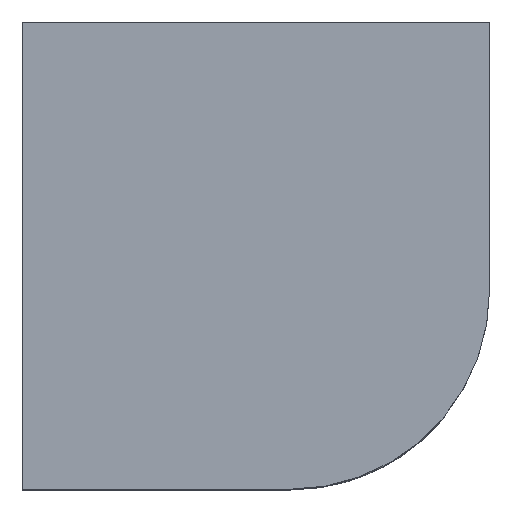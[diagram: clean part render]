
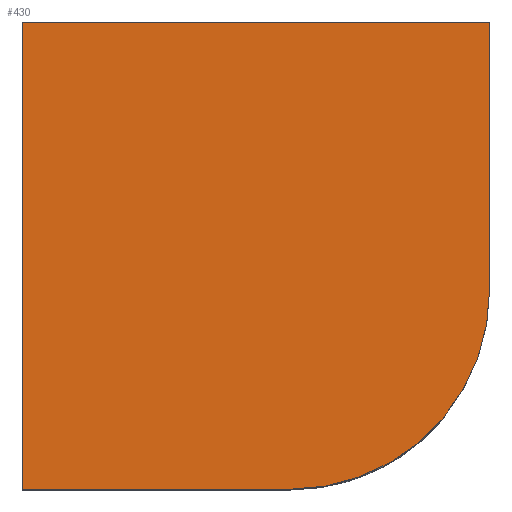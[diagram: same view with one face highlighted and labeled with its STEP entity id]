
A CAD part, top view. The second image highlights one B-rep face of the part: STEP entity #430.
In plain terms, the highlighted planar face has unit normal (0, 0, 1).
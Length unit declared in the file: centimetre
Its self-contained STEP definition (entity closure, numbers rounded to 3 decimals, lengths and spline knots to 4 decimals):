
#11 = DIRECTION ( 'NONE',  ( 0., 0., 1. ) ) ;
#13 = CARTESIAN_POINT ( 'NONE',  ( 574.0455, 425.9545, 1000. ) ) ;
#25 = DIRECTION ( 'NONE',  ( 0., 1., 0. ) ) ;
#53 = CARTESIAN_POINT ( 'NONE',  ( 1000., 425.9545, 1000. ) ) ;
#55 = DIRECTION ( 'NONE',  ( 0., 0., 1. ) ) ;
#62 = DIRECTION ( 'NONE',  ( 1., 0., 0. ) ) ;
#122 = CARTESIAN_POINT ( 'NONE',  ( 0., 1000., 1000. ) ) ;
#124 = EDGE_CURVE ( 'NONE', #401, #425, #357, .T. ) ;
#125 = VECTOR ( 'NONE', #261, 100. ) ;
#171 = ORIENTED_EDGE ( 'NONE', *, *, #526, .T. ) ;
#176 = CARTESIAN_POINT ( 'NONE',  ( 0., 1000., 1000. ) ) ;
#203 = CARTESIAN_POINT ( 'NONE',  ( 0., 0., 1000. ) ) ;
#207 = CARTESIAN_POINT ( 'NONE',  ( 574.0455, 0., 1000. ) ) ;
#254 = CARTESIAN_POINT ( 'NONE',  ( 1000., 1000., 1000. ) ) ;
#261 = DIRECTION ( 'NONE',  ( -1., 0., 0. ) ) ;
#294 = PLANE ( 'NONE',  #454 ) ;
#300 = DIRECTION ( 'NONE',  ( 1., 0., 0. ) ) ;
#301 = CIRCLE ( 'NONE', #360, 425.9545 ) ;
#303 = VECTOR ( 'NONE', #406, 100. ) ;
#319 = VERTEX_POINT ( 'NONE', #207 ) ;
#323 = CARTESIAN_POINT ( 'NONE',  ( 0., 0., 1000. ) ) ;
#342 = EDGE_CURVE ( 'NONE', #319, #401, #301, .T. ) ;
#347 = EDGE_CURVE ( 'NONE', #425, #461, #434, .T. ) ;
#355 = ORIENTED_EDGE ( 'NONE', *, *, #342, .T. ) ;
#356 = DIRECTION ( 'NONE',  ( 1., 0., 0. ) ) ;
#357 = LINE ( 'NONE', #442, #418 ) ;
#359 = LINE ( 'NONE', #122, #303 ) ;
#360 = AXIS2_PLACEMENT_3D ( 'NONE', #13, #55, #62 ) ;
#387 = CARTESIAN_POINT ( 'NONE',  ( 0., 1000., 1000. ) ) ;
#401 = VERTEX_POINT ( 'NONE', #53 ) ;
#405 = ORIENTED_EDGE ( 'NONE', *, *, #124, .T. ) ;
#406 = DIRECTION ( 'NONE',  ( 0., -1., 0. ) ) ;
#409 = CARTESIAN_POINT ( 'NONE',  ( 0., 0., 1000. ) ) ;
#418 = VECTOR ( 'NONE', #25, 100. ) ;
#425 = VERTEX_POINT ( 'NONE', #254 ) ;
#430 = ADVANCED_FACE ( 'NONE', ( #580 ), #294, .T. ) ;
#434 = LINE ( 'NONE', #387, #125 ) ;
#442 = CARTESIAN_POINT ( 'NONE',  ( 1000., 1000., 1000. ) ) ;
#454 = AXIS2_PLACEMENT_3D ( 'NONE', #203, #11, #300 ) ;
#461 = VERTEX_POINT ( 'NONE', #176 ) ;
#464 = ORIENTED_EDGE ( 'NONE', *, *, #579, .T. ) ;
#521 = VECTOR ( 'NONE', #356, 100. ) ;
#526 = EDGE_CURVE ( 'NONE', #553, #319, #586, .T. ) ;
#546 = ORIENTED_EDGE ( 'NONE', *, *, #347, .T. ) ;
#553 = VERTEX_POINT ( 'NONE', #323 ) ;
#579 = EDGE_CURVE ( 'NONE', #461, #553, #359, .T. ) ;
#580 = FACE_OUTER_BOUND ( 'NONE', #596, .T. ) ;
#586 = LINE ( 'NONE', #409, #521 ) ;
#596 = EDGE_LOOP ( 'NONE', ( #171, #355, #405, #546, #464 ) ) ;
